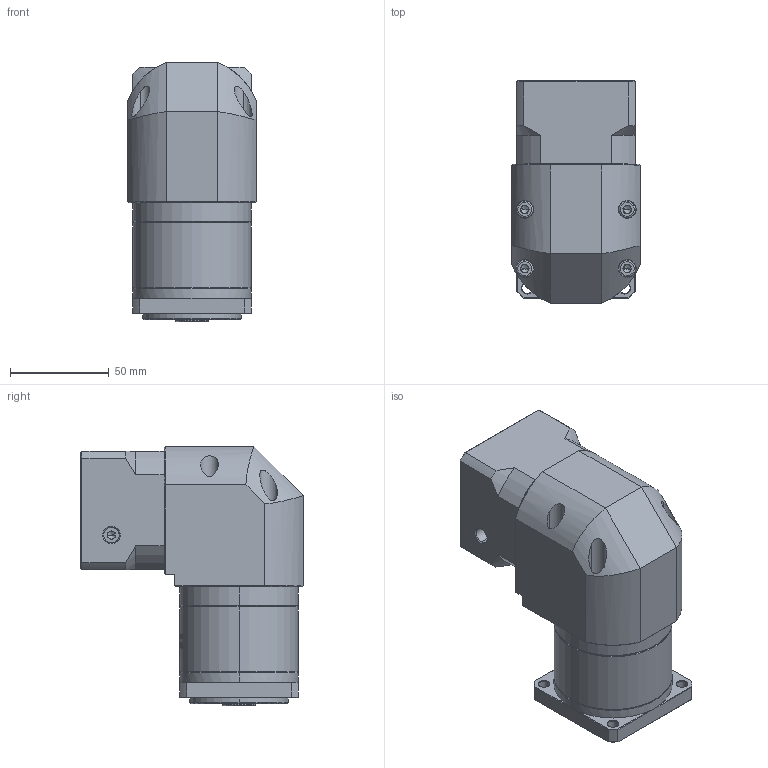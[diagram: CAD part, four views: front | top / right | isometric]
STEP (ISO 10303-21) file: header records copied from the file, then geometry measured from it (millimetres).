
FILE_DESCRIPTION (( 'STEP AP214' ), '1' );
FILE_NAME ('ZFR060-K10-L1-P2-14-50-70-M4.step', '2023-08-17T03:37:13', ( '' ), ( '' ), 'SwSTEP 2.0', 'SolidWorks 2016', '' );
FILE_SCHEMA (( 'AUTOMOTIVE_DESIGN' ));
Length unit declared in the file: millimetre
Products named in the file (1): ZFR060-K10-L1-P2-14-50-70-M4
Bounding box: 65 x 112.7 x 131.5 mm (x, y, z)
Volume: 529953.7 mm3; surface area: 77113.1 mm2
Topology: 5 solids, 6 shells, 1849 faces, 4931 edges, 3178 vertices
Faces by surface type: plane 840, bspline 359, cylinder 356, cone 282, torus 12
Entity records: 98000 total; most frequent: CARTESIAN_POINT 35555, ORIENTED_EDGE 9822, DIRECTION 7338, EDGE_CURVE 4911, VERTEX_POINT 3178, VECTOR 2534, LINE 2534, AXIS2_PLACEMENT_3D 2402
